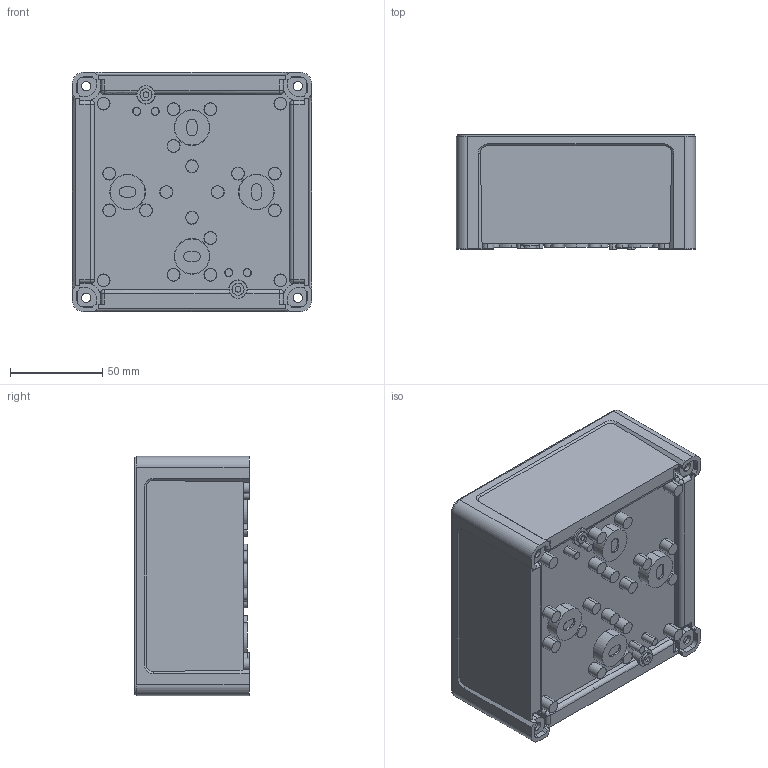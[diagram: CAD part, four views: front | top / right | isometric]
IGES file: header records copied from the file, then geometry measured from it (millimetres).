
Start section: SolidWorks IGES file using analytic representation for surfaces
Global section: file name: V:\M11661 Fibox_tempo\MJKE\CAD\FIBOX_3D_MALLIT\3D BASE\FIBOX_TEMPO_1313B.IGS; native system: SolidWorks 2007; preprocessor: SolidWorks 2007; author: mjke; date: 080813.170255; units: millimetre
Bounding box: 130 x 62 x 130 mm (x, y, z)
Volume: 127799.6 mm3; surface area: 110966.1 mm2
Topology: 1 solids, 1 shells, 524 faces, 1271 edges, 834 vertices
Faces by surface type: revolution 259, plane 257, bspline 8
